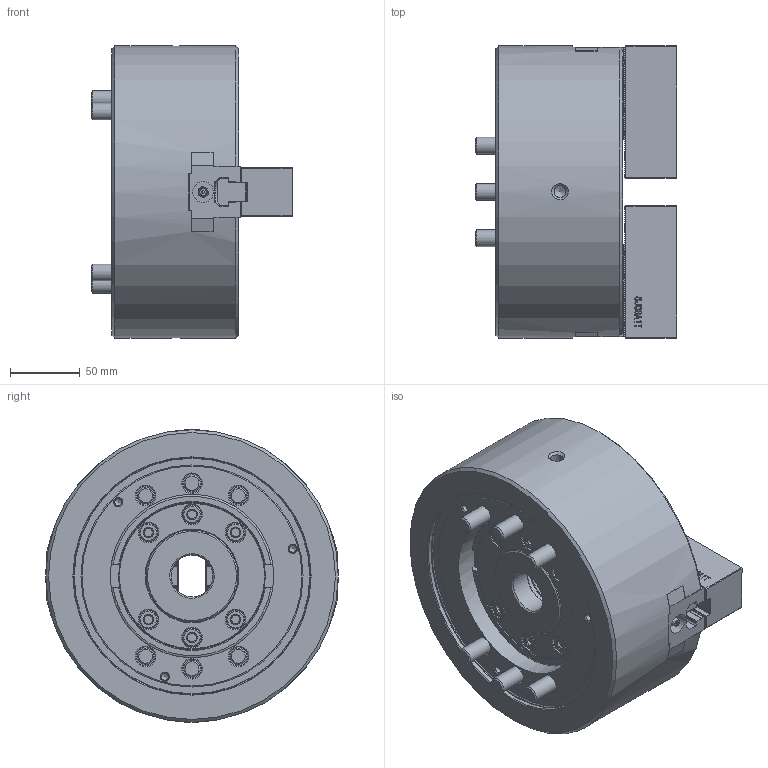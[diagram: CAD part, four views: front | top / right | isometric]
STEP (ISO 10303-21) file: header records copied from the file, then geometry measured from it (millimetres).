
FILE_DESCRIPTION (( 'STEP AP214' ), '1' );
FILE_NAME ('DT1_BT208_OUTSIDE_VIEW_HUL.STEP', '2024-05-09T00:43:54', ( '' ), ( '' ), 'SwSTEP 2.0', 'SolidWorks 2022', '' );
FILE_SCHEMA (( 'AUTOMOTIVE_DESIGN' ));
Length unit declared in the file: millimetre
Products named in the file (9): DT1_BT208_DRAWNUT^DT1-BT208_ﾃﾞﾌｫﾙﾄ; DT1_BT208_M12x90^DT1-BT208_ﾃﾞﾌｫﾙﾄ; DT1_BT208_SOFTJAW^DT1-BT208_ﾃﾞﾌｫﾙﾄ; DT1_BT208_M5x10^DT1-BT208_ﾃﾞﾌｫﾙﾄ; DT1_BT208_COVER^DT1-BT208_ﾃﾞﾌｫﾙﾄ; DT1_BT208_BASE^DT1-BT208_ﾃﾞﾌｫﾙﾄ; DT1_BT208_M12x30^DT1-BT208_ﾃﾞﾌｫﾙﾄ; DT1_BT208_TNUT^DT1-BT208_ﾃﾞﾌｫﾙﾄ; DT1_BT208_OUTSIDE_VIEW_HUL
Assembly tree (21 placements, depth 2):
  DT1_BT208_OUTSIDE_VIEW_HUL
    DT1_BT208_SOFTJAW^DT1-BT208_ﾃﾞﾌｫﾙﾄ  x2
    DT1_BT208_TNUT^DT1-BT208_ﾃﾞﾌｫﾙﾄ  x2
    DT1_BT208_DRAWNUT^DT1-BT208_ﾃﾞﾌｫﾙﾄ
    DT1_BT208_COVER^DT1-BT208_ﾃﾞﾌｫﾙﾄ
    DT1_BT208_BASE^DT1-BT208_ﾃﾞﾌｫﾙﾄ
    DT1_BT208_M5x10^DT1-BT208_ﾃﾞﾌｫﾙﾄ  x4
    DT1_BT208_M12x30^DT1-BT208_ﾃﾞﾌｫﾙﾄ  x4
    DT1_BT208_M12x90^DT1-BT208_ﾃﾞﾌｫﾙﾄ  x6
Bounding box: 145 x 210 x 210 mm (x, y, z)
Volume: 2951842.9 mm3; surface area: 322564.7 mm2
Topology: 21 solids, 21 shells, 3252 faces, 9105 edges, 6006 vertices
Faces by surface type: plane 2147, cylinder 600, bspline 290, cone 192, torus 21, sphere 2
Full cylindrical faces by diameter (mm): 2 x2, 4.2 x4, 5 x7, 5.5 x4, 8.5 x2, 9.5 x4, 10 x4, 10.2 x4, 12 x10, 13 x4, 13.27 x6, 13.5 x6, 14 x6, 15 x2, 18.27 x10, 19 x4, 20 x6, 30 x1, 52 x1, 56 x2, 61 x1, 64.8 x2, 66 x2, 72 x2, 105.2 x1, 117.5 x1, 170 x1, 170.8 x1, 210 x1
Entity records: 82757 total; most frequent: CARTESIAN_POINT 25410, ORIENTED_EDGE 12888, DIRECTION 9932, EDGE_CURVE 6444, LINE 4702, VECTOR 4702, VERTEX_POINT 4341, EDGE_LOOP 2657
